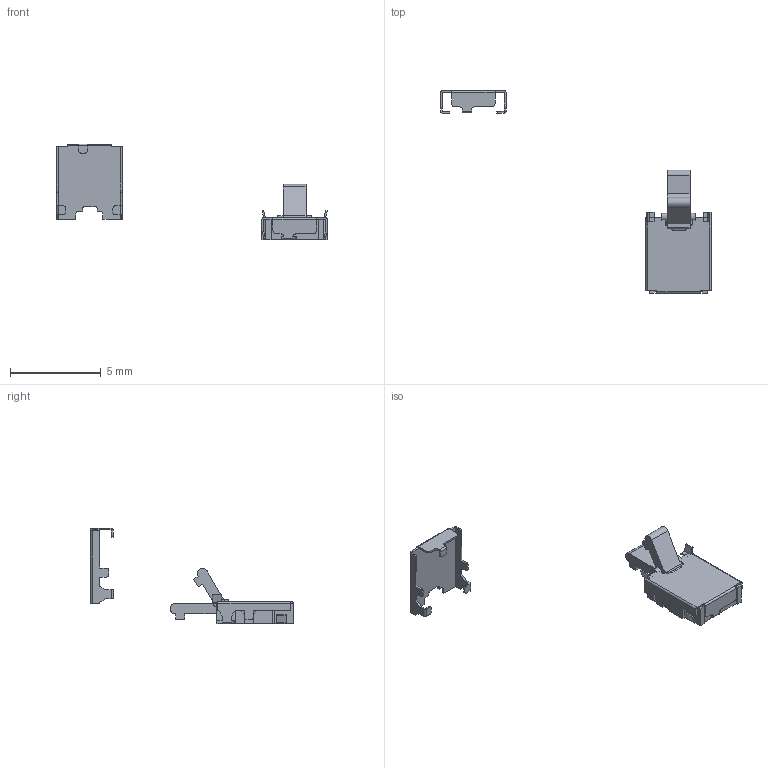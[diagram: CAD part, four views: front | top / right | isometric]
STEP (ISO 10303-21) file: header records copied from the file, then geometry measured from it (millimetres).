
FILE_DESCRIPTION( ( 'Unknown' ), '1' );
FILE_NAME( '//Ntcw022/edgesv/fsw/ユーザ提出用データ/ﾃﾞｨﾃｸﾀｰｽｲｯﾁ/ESE13/ese13v01a-std-sk.stp', 'Unknown', ( 'Unknown' ), ( 'Unknown' ), 'PSStep 10.0', 'Unknown', ' ' );
FILE_SCHEMA( ( 'AUTOMOTIVE_DESIGN { 1 0 10303 214 1 1 1 1 }' ) );
Length unit declared in the file: millimetre
Products named in the file (6): Assem1; sw-131-e13cs-sk; sw-131-e13fm-sk; sw-131-e13lv1-sk; sw-131-e13ts-j-sk
Bounding box: 14.9 x 11.15 x 5.28 mm (x, y, z)
Volume: 38 mm3; surface area: 220 mm2
Topology: 10 solids, 10 shells, 364 faces, 1000 edges, 664 vertices
Faces by surface type: plane 284, cylinder 80
Full cylindrical faces by diameter (mm): 0.01 x8, 0.4 x2
Entity records: 7119 total; most frequent: CARTESIAN_POINT 1014, ORIENTED_EDGE 988, DIRECTION 952, EDGE_CURVE 494, LINE 412, VECTOR 412, VERTEX_POINT 332, AXIS2_PLACEMENT_3D 270
